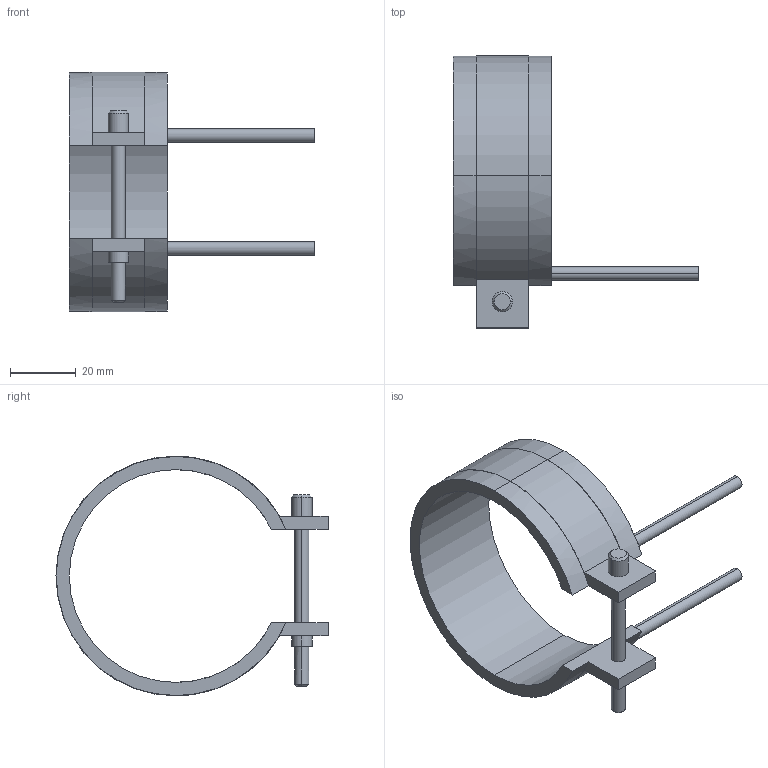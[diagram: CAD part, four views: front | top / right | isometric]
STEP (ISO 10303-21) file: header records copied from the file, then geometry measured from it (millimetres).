
FILE_DESCRIPTION(('CATIA V5 STEP Exchange'),'2;1');
FILE_NAME('C:\Users\Utente\Desktop\IO LAVORO\3D X SITO CF\X SITO\PLASTICA\RF2\14065030.stp','2021-04-03T07:57:13+00:00',('none'),('none'),'CATIA Version 5 Release 20 GA (IN-10)','CATIA V5 STEP AP203','none');
FILE_SCHEMA(('CONFIG_CONTROL_DESIGN'));
Length unit declared in the file: millimetre
Products named in the file (1): 14065030
Bounding box: 75 x 83.1 x 73.2 mm (x, y, z)
Volume: 26583.5 mm3; surface area: 15978 mm2
Topology: 1 solids, 1 shells, 45 faces, 116 edges, 76 vertices
Faces by surface type: cylinder 24, plane 17, cone 4
Entity records: 1406 total; most frequent: CARTESIAN_POINT 280, ORIENTED_EDGE 232, DIRECTION 196, EDGE_CURVE 116, AXIS2_PLACEMENT_3D 104, VERTEX_POINT 76, CIRCLE 62, VECTOR 52
